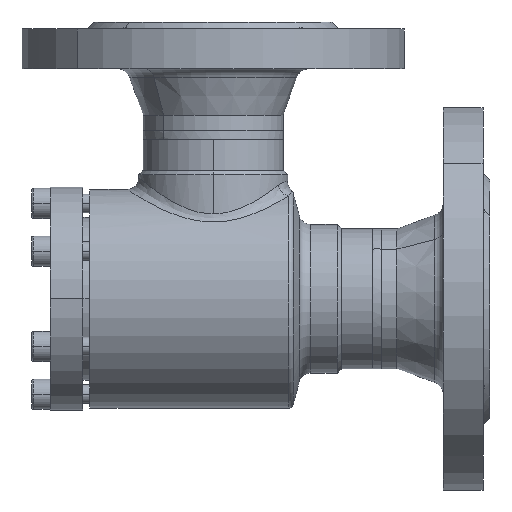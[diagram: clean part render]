
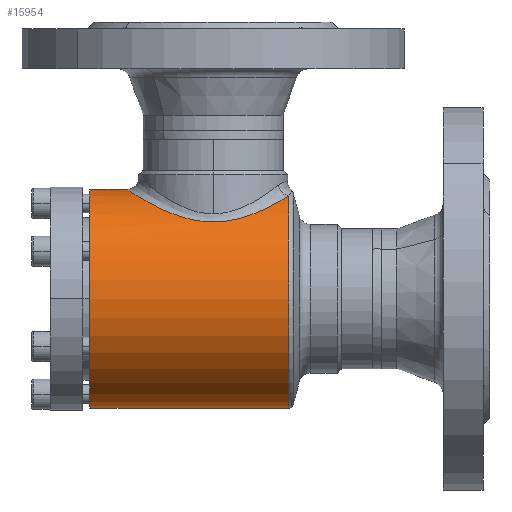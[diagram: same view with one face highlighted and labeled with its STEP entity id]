
A CAD part, left-side view. The second image highlights one B-rep face of the part: STEP entity #15954.
In plain terms, the highlighted cylindrical face has radius 47 mm (diameter 94 mm), a partial arc.
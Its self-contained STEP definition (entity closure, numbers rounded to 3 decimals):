
#2 = VERTEX_POINT ( 'NONE', #13492 ) ;
#2346 = ORIENTED_EDGE ( 'NONE', *, *, #6077, .T. ) ;
#3384 = VERTEX_POINT ( 'NONE', #11177 ) ;
#3596 = EDGE_CURVE ( 'NONE', #3384, #4767, #11466, .T. ) ;
#4559 = EDGE_LOOP ( 'NONE', ( #13432, #2346, #13395, #11614, #11282 ) ) ;
#4767 = VERTEX_POINT ( 'NONE', #12706 ) ;
#5811 = VERTEX_POINT ( 'NONE', #16328 ) ;
#6024 = EDGE_CURVE ( 'NONE', #2, #5811, #8392, .T. ) ;
#6077 = EDGE_CURVE ( 'NONE', #2, #9462, #8458, .T. ) ;
#8392 = LINE ( 'NONE', #8393, #8394 ) ;
#8393 = CARTESIAN_POINT ( 'NONE',  ( 0., -91., -47. ) ) ;
#8394 = VECTOR ( 'NONE', #8395, 1000. ) ;
#8395 = DIRECTION ( 'NONE',  ( 0., 1., 0. ) ) ;
#8458 = CIRCLE ( 'NONE', #8461, 47. ) ;
#8461 = AXIS2_PLACEMENT_3D ( 'NONE', #8462, #8463, #8464 ) ;
#8462 = CARTESIAN_POINT ( 'NONE',  ( 0., -85.446, 0. ) ) ;
#8463 = DIRECTION ( 'NONE',  ( 0., 1., 0. ) ) ;
#8464 = DIRECTION ( 'NONE',  ( 0., 0., -1. ) ) ;
#9462 = VERTEX_POINT ( 'NONE', #13732 ) ;
#9750 = B_SPLINE_CURVE_WITH_KNOTS ( 'NONE', 3,
 ( #9751, #9752, #9753, #9754, #9755, #9756, #9757, #9758, #9759, #9760, #9761, #9763, #9764, #9765, #9766, #9767, #9768, #9769, #9770, #9771, #9772, #9773, #9774, #9775, #9776, #9777, #9778, #9779, #9780, #9781, #9782, #9783, #9784, #9785, #9786, #9787, #9788, #9789, #9790, #9791, #9792, #9793, #9794, #9797, #9798, #9799, #9800, #9801, #9802, #9803, #9804, #9805, #9806, #9807, #9808, #9809, #9810, #9811, #9812, #9813, #9814, #9815 ),
 .UNSPECIFIED., .F., .F.,
 ( 4, 2, 2, 2, 2, 2, 2, 2, 2, 2, 2, 2, 2, 2, 2, 2, 2, 2, 2, 2, 2, 2, 2, 2, 2, 2, 2, 2, 2, 2, 4 ),
 ( 0.017, 0.023, 0.026, 0.029, 0.035, 0.039, 0.04, 0.042, 0.048, 0.051, 0.052, 0.054, 0.06, 0.063, 0.066, 0.069, 0.072, 0.078, 0.081, 0.083, 0.084, 0.09, 0.093, 0.095, 0.096, 0.103, 0.106, 0.107, 0.109, 0.112, 0.115 ),
 .UNSPECIFIED. ) ;
#9751 = CARTESIAN_POINT ( 'NONE',  ( -16.073, -85.446, 44.166 ) ) ;
#9752 = CARTESIAN_POINT ( 'NONE',  ( -17.749, -84.43, 43.556 ) ) ;
#9753 = CARTESIAN_POINT ( 'NONE',  ( -19.293, -83.29, 42.887 ) ) ;
#9754 = CARTESIAN_POINT ( 'NONE',  ( -21.444, -81.41, 41.831 ) ) ;
#9755 = CARTESIAN_POINT ( 'NONE',  ( -22.133, -80.755, 41.469 ) ) ;
#9756 = CARTESIAN_POINT ( 'NONE',  ( -23.459, -79.389, 40.734 ) ) ;
#9757 = CARTESIAN_POINT ( 'NONE',  ( -24.096, -78.676, 40.359 ) ) ;
#9758 = CARTESIAN_POINT ( 'NONE',  ( -25.907, -76.48, 39.24 ) ) ;
#9759 = CARTESIAN_POINT ( 'NONE',  ( -26.989, -74.936, 38.497 ) ) ;
#9760 = CARTESIAN_POINT ( 'NONE',  ( -28.44, -72.491, 37.424 ) ) ;
#9761 = CARTESIAN_POINT ( 'NONE',  ( -28.894, -71.655, 37.073 ) ) ;
#9763 = CARTESIAN_POINT ( 'NONE',  ( -29.533, -70.366, 36.563 ) ) ;
#9764 = CARTESIAN_POINT ( 'NONE',  ( -29.739, -69.93, 36.396 ) ) ;
#9765 = CARTESIAN_POINT ( 'NONE',  ( -30.137, -69.047, 36.067 ) ) ;
#9766 = CARTESIAN_POINT ( 'NONE',  ( -30.328, -68.599, 35.906 ) ) ;
#9767 = CARTESIAN_POINT ( 'NONE',  ( -31.243, -66.344, 35.126 ) ) ;
#9768 = CARTESIAN_POINT ( 'NONE',  ( -31.842, -64.482, 34.576 ) ) ;
#9769 = CARTESIAN_POINT ( 'NONE',  ( -32.541, -61.591, 33.914 ) ) ;
#9770 = CARTESIAN_POINT ( 'NONE',  ( -32.74, -60.61, 33.721 ) ) ;
#9771 = CARTESIAN_POINT ( 'NONE',  ( -32.986, -59.111, 33.48 ) ) ;
#9772 = CARTESIAN_POINT ( 'NONE',  ( -33.059, -58.608, 33.408 ) ) ;
#9773 = CARTESIAN_POINT ( 'NONE',  ( -33.186, -57.603, 33.282 ) ) ;
#9774 = CARTESIAN_POINT ( 'NONE',  ( -33.239, -57.1, 33.229 ) ) ;
#9775 = CARTESIAN_POINT ( 'NONE',  ( -33.462, -54.583, 33.006 ) ) ;
#9776 = CARTESIAN_POINT ( 'NONE',  ( -33.49, -52.562, 32.976 ) ) ;
#9777 = CARTESIAN_POINT ( 'NONE',  ( -33.307, -49.52, 33.161 ) ) ;
#9778 = CARTESIAN_POINT ( 'NONE',  ( -33.207, -48.498, 33.262 ) ) ;
#9779 = CARTESIAN_POINT ( 'NONE',  ( -32.933, -46.49, 33.532 ) ) ;
#9780 = CARTESIAN_POINT ( 'NONE',  ( -32.761, -45.501, 33.702 ) ) ;
#9781 = CARTESIAN_POINT ( 'NONE',  ( -32.346, -43.55, 34.1 ) ) ;
#9782 = CARTESIAN_POINT ( 'NONE',  ( -32.103, -42.587, 34.33 ) ) ;
#9783 = CARTESIAN_POINT ( 'NONE',  ( -31.549, -40.688, 34.839 ) ) ;
#9784 = CARTESIAN_POINT ( 'NONE',  ( -31.237, -39.749, 35.121 ) ) ;
#9785 = CARTESIAN_POINT ( 'NONE',  ( -30.211, -37.009, 36.016 ) ) ;
#9786 = CARTESIAN_POINT ( 'NONE',  ( -29.406, -35.272, 36.683 ) ) ;
#9787 = CARTESIAN_POINT ( 'NONE',  ( -28.021, -32.781, 37.738 ) ) ;
#9788 = CARTESIAN_POINT ( 'NONE',  ( -27.529, -31.97, 38.099 ) ) ;
#9789 = CARTESIAN_POINT ( 'NONE',  ( -26.744, -30.781, 38.65 ) ) ;
#9790 = CARTESIAN_POINT ( 'NONE',  ( -26.475, -30.389, 38.835 ) ) ;
#9791 = CARTESIAN_POINT ( 'NONE',  ( -25.92, -29.615, 39.208 ) ) ;
#9792 = CARTESIAN_POINT ( 'NONE',  ( -25.634, -29.233, 39.396 ) ) ;
#9793 = CARTESIAN_POINT ( 'NONE',  ( -24.175, -27.357, 40.33 ) ) ;
#9794 = CARTESIAN_POINT ( 'NONE',  ( -22.902, -25.964, 41.072 ) ) ;
#9797 = CARTESIAN_POINT ( 'NONE',  ( -20.822, -24.029, 42.143 ) ) ;
#9798 = CARTESIAN_POINT ( 'NONE',  ( -20.099, -23.411, 42.494 ) ) ;
#9799 = CARTESIAN_POINT ( 'NONE',  ( -18.969, -22.523, 43.004 ) ) ;
#9800 = CARTESIAN_POINT ( 'NONE',  ( -18.584, -22.235, 43.172 ) ) ;
#9801 = CARTESIAN_POINT ( 'NONE',  ( -17.798, -21.671, 43.502 ) ) ;
#9802 = CARTESIAN_POINT ( 'NONE',  ( -17.396, -21.396, 43.664 ) ) ;
#9803 = CARTESIAN_POINT ( 'NONE',  ( -15.356, -20.064, 44.455 ) ) ;
#9804 = CARTESIAN_POINT ( 'NONE',  ( -13.635, -19.147, 45.018 ) ) ;
#9805 = CARTESIAN_POINT ( 'NONE',  ( -10.906, -18.006, 45.727 ) ) ;
#9806 = CARTESIAN_POINT ( 'NONE',  ( -9.972, -17.666, 45.94 ) ) ;
#9807 = CARTESIAN_POINT ( 'NONE',  ( -8.53, -17.219, 46.222 ) ) ;
#9808 = CARTESIAN_POINT ( 'NONE',  ( -8.041, -17.081, 46.31 ) ) ;
#9809 = CARTESIAN_POINT ( 'NONE',  ( -7.058, -16.829, 46.47 ) ) ;
#9810 = CARTESIAN_POINT ( 'NONE',  ( -6.563, -16.715, 46.542 ) ) ;
#9811 = CARTESIAN_POINT ( 'NONE',  ( -5.066, -16.41, 46.737 ) ) ;
#9812 = CARTESIAN_POINT ( 'NONE',  ( -4.049, -16.255, 46.836 ) ) ;
#9813 = CARTESIAN_POINT ( 'NONE',  ( -2.024, -16.051, 46.967 ) ) ;
#9814 = CARTESIAN_POINT ( 'NONE',  ( -1.011, -16., 47. ) ) ;
#9815 = CARTESIAN_POINT ( 'NONE',  ( 0., -16., 47. ) ) ;
#11177 = CARTESIAN_POINT ( 'NONE',  ( 0., -16., 47. ) ) ;
#11282 = ORIENTED_EDGE ( 'NONE', *, *, #13387, .F. ) ;
#11466 = LINE ( 'NONE', #11467, #11468 ) ;
#11467 = CARTESIAN_POINT ( 'NONE',  ( 0., -91., 47. ) ) ;
#11468 = VECTOR ( 'NONE', #11469, 1000. ) ;
#11469 = DIRECTION ( 'NONE',  ( 0., 1., 0. ) ) ;
#11614 = ORIENTED_EDGE ( 'NONE', *, *, #3596, .T. ) ;
#12147 = FACE_OUTER_BOUND ( 'NONE', #4559, .T. ) ;
#12148 = CYLINDRICAL_SURFACE ( 'NONE', #12149, 47. ) ;
#12149 = AXIS2_PLACEMENT_3D ( 'NONE', #12150, #12151, #12152 ) ;
#12150 = CARTESIAN_POINT ( 'NONE',  ( 0., -91., 0. ) ) ;
#12151 = DIRECTION ( 'NONE',  ( 0., 1., 0. ) ) ;
#12152 = DIRECTION ( 'NONE',  ( 0., 0., 1. ) ) ;
#12686 = CIRCLE ( 'NONE', #12687, 47. ) ;
#12687 = AXIS2_PLACEMENT_3D ( 'NONE', #12688, #12689, #12690 ) ;
#12688 = CARTESIAN_POINT ( 'NONE',  ( 0., 0., 0. ) ) ;
#12689 = DIRECTION ( 'NONE',  ( 0., 1., 0. ) ) ;
#12690 = DIRECTION ( 'NONE',  ( 0., 0., 1. ) ) ;
#12706 = CARTESIAN_POINT ( 'NONE',  ( 0., 0., 47. ) ) ;
#13387 = EDGE_CURVE ( 'NONE', #5811, #4767, #12686, .T. ) ;
#13395 = ORIENTED_EDGE ( 'NONE', *, *, #14408, .T. ) ;
#13432 = ORIENTED_EDGE ( 'NONE', *, *, #6024, .F. ) ;
#13492 = CARTESIAN_POINT ( 'NONE',  ( 0., -85.446, -47. ) ) ;
#13732 = CARTESIAN_POINT ( 'NONE',  ( -16.073, -85.446, 44.166 ) ) ;
#14408 = EDGE_CURVE ( 'NONE', #9462, #3384, #9750, .T. ) ;
#15954 = ADVANCED_FACE ( 'NONE', ( #12147 ), #12148, .T. ) ;
#16328 = CARTESIAN_POINT ( 'NONE',  ( 0., 0., -47. ) ) ;
